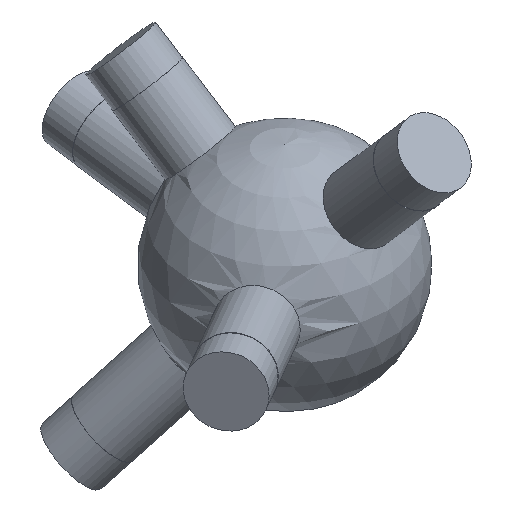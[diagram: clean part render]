
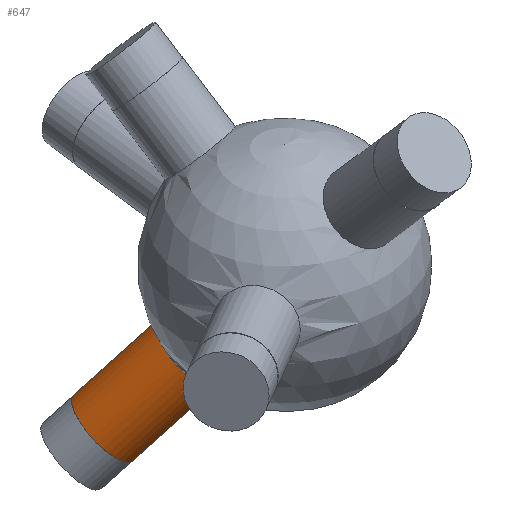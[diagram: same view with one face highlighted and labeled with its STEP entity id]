
A CAD part, isometric view. The second image highlights one B-rep face of the part: STEP entity #647.
In plain terms, the highlighted cylindrical face has radius 6 mm (diameter 12 mm), a full revolution.
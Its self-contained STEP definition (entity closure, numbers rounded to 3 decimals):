
#35 = SPHERICAL_SURFACE('',#36,20.);
#36 = AXIS2_PLACEMENT_3D('',#37,#38,#39);
#37 = CARTESIAN_POINT('',(0.,0.,0.));
#38 = DIRECTION('',(0.,0.,1.));
#39 = DIRECTION('',(1.,0.,-0.));
#130 = EDGE_CURVE('',#131,#131,#133,.T.);
#131 = VERTEX_POINT('',#132);
#132 = CARTESIAN_POINT('',(-15.39,8.242,-9.757
    ));
#133 = SURFACE_CURVE('',#134,(#139,#222),.PCURVE_S1.);
#134 = CIRCLE('',#135,6.);
#135 = AXIS2_PLACEMENT_3D('',#136,#137,#138);
#136 = CARTESIAN_POINT('',(-10.688,8.242,
    -13.484));
#137 = DIRECTION('',(-0.56,0.432,-0.707));
#138 = DIRECTION('',(0.784,0.,-0.621)
  );
#139 = PCURVE('',#35,#140);
#140 = DEFINITIONAL_REPRESENTATION('',(#141),#221);
#141 = B_SPLINE_CURVE_WITH_KNOTS('',8,(#142,#143,#144,#145,#146,#147,
    #148,#149,#150,#151,#152,#153,#154,#155,#156,#157,#158,#159,#160,
    #161,#162,#163,#164,#165,#166,#167,#168,#169,#170,#171,#172,#173,
    #174,#175,#176,#177,#178,#179,#180,#181,#182,#183,#184,#185,#186,
    #187,#188,#189,#190,#191,#192,#193,#194,#195,#196,#197,#198,#199,
    #200,#201,#202,#203,#204,#205,#206,#207,#208,#209,#210,#211,#212,
    #213,#214,#215,#216,#217,#218,#219,#220),.UNSPECIFIED.,.T.,.F.,(9,7,
    7,7,7,7,7,7,7,7,7,9),(3.142,3.927,4.614,
    5.216,5.742,6.202,6.605,
    6.957,7.266,7.806,8.615,
    9.425),.UNSPECIFIED.);
#142 = CARTESIAN_POINT('',(2.65,-0.51));
#143 = CARTESIAN_POINT('',(2.619,-0.498));
#144 = CARTESIAN_POINT('',(2.587,-0.489));
#145 = CARTESIAN_POINT('',(2.554,-0.483));
#146 = CARTESIAN_POINT('',(2.521,-0.479));
#147 = CARTESIAN_POINT('',(2.487,-0.478));
#148 = CARTESIAN_POINT('',(2.454,-0.479));
#149 = CARTESIAN_POINT('',(2.421,-0.483));
#150 = CARTESIAN_POINT('',(2.36,-0.496));
#151 = CARTESIAN_POINT('',(2.332,-0.504));
#152 = CARTESIAN_POINT('',(2.305,-0.513));
#153 = CARTESIAN_POINT('',(2.278,-0.525));
#154 = CARTESIAN_POINT('',(2.252,-0.538));
#155 = CARTESIAN_POINT('',(2.227,-0.553));
#156 = CARTESIAN_POINT('',(2.204,-0.57));
#157 = CARTESIAN_POINT('',(2.163,-0.604));
#158 = CARTESIAN_POINT('',(2.144,-0.621));
#159 = CARTESIAN_POINT('',(2.128,-0.639));
#160 = CARTESIAN_POINT('',(2.112,-0.658));
#161 = CARTESIAN_POINT('',(2.098,-0.678));
#162 = CARTESIAN_POINT('',(2.085,-0.698));
#163 = CARTESIAN_POINT('',(2.075,-0.719));
#164 = CARTESIAN_POINT('',(2.058,-0.76));
#165 = CARTESIAN_POINT('',(2.052,-0.779));
#166 = CARTESIAN_POINT('',(2.048,-0.799));
#167 = CARTESIAN_POINT('',(2.045,-0.819));
#168 = CARTESIAN_POINT('',(2.045,-0.838));
#169 = CARTESIAN_POINT('',(2.046,-0.858));
#170 = CARTESIAN_POINT('',(2.05,-0.878));
#171 = CARTESIAN_POINT('',(2.063,-0.914));
#172 = CARTESIAN_POINT('',(2.07,-0.931));
#173 = CARTESIAN_POINT('',(2.08,-0.947));
#174 = CARTESIAN_POINT('',(2.092,-0.963));
#175 = CARTESIAN_POINT('',(2.107,-0.978));
#176 = CARTESIAN_POINT('',(2.124,-0.993));
#177 = CARTESIAN_POINT('',(2.143,-1.006));
#178 = CARTESIAN_POINT('',(2.185,-1.03));
#179 = CARTESIAN_POINT('',(2.206,-1.041));
#180 = CARTESIAN_POINT('',(2.23,-1.05));
#181 = CARTESIAN_POINT('',(2.255,-1.059));
#182 = CARTESIAN_POINT('',(2.282,-1.067));
#183 = CARTESIAN_POINT('',(2.311,-1.073));
#184 = CARTESIAN_POINT('',(2.341,-1.078));
#185 = CARTESIAN_POINT('',(2.399,-1.086));
#186 = CARTESIAN_POINT('',(2.427,-1.089));
#187 = CARTESIAN_POINT('',(2.455,-1.09));
#188 = CARTESIAN_POINT('',(2.484,-1.091));
#189 = CARTESIAN_POINT('',(2.513,-1.09));
#190 = CARTESIAN_POINT('',(2.541,-1.089));
#191 = CARTESIAN_POINT('',(2.569,-1.086));
#192 = CARTESIAN_POINT('',(2.62,-1.08));
#193 = CARTESIAN_POINT('',(2.643,-1.076));
#194 = CARTESIAN_POINT('',(2.666,-1.071));
#195 = CARTESIAN_POINT('',(2.688,-1.066));
#196 = CARTESIAN_POINT('',(2.708,-1.06));
#197 = CARTESIAN_POINT('',(2.728,-1.054));
#198 = CARTESIAN_POINT('',(2.746,-1.047));
#199 = CARTESIAN_POINT('',(2.794,-1.026));
#200 = CARTESIAN_POINT('',(2.821,-1.012));
#201 = CARTESIAN_POINT('',(2.844,-0.995));
#202 = CARTESIAN_POINT('',(2.864,-0.978));
#203 = CARTESIAN_POINT('',(2.88,-0.96));
#204 = CARTESIAN_POINT('',(2.893,-0.941));
#205 = CARTESIAN_POINT('',(2.903,-0.922));
#206 = CARTESIAN_POINT('',(2.922,-0.873));
#207 = CARTESIAN_POINT('',(2.927,-0.842));
#208 = CARTESIAN_POINT('',(2.926,-0.812));
#209 = CARTESIAN_POINT('',(2.92,-0.781));
#210 = CARTESIAN_POINT('',(2.911,-0.751));
#211 = CARTESIAN_POINT('',(2.898,-0.722));
#212 = CARTESIAN_POINT('',(2.882,-0.694));
#213 = CARTESIAN_POINT('',(2.844,-0.641));
#214 = CARTESIAN_POINT('',(2.822,-0.616));
#215 = CARTESIAN_POINT('',(2.797,-0.593));
#216 = CARTESIAN_POINT('',(2.771,-0.572));
#217 = CARTESIAN_POINT('',(2.743,-0.553));
#218 = CARTESIAN_POINT('',(2.713,-0.536));
#219 = CARTESIAN_POINT('',(2.682,-0.521));
#220 = CARTESIAN_POINT('',(2.65,-0.51));
#221 = ( GEOMETRIC_REPRESENTATION_CONTEXT(2) 
PARAMETRIC_REPRESENTATION_CONTEXT() REPRESENTATION_CONTEXT('2D SPACE',''
  ) );
#222 = PCURVE('',#223,#228);
#223 = CYLINDRICAL_SURFACE('',#224,6.);
#224 = AXIS2_PLACEMENT_3D('',#225,#226,#227);
#225 = CARTESIAN_POINT('',(0.,0.,0.));
#226 = DIRECTION('',(-0.56,0.432,-0.707));
#227 = DIRECTION('',(-0.784,0.,0.621)
  );
#228 = DEFINITIONAL_REPRESENTATION('',(#229),#233);
#229 = LINE('',#230,#231);
#230 = CARTESIAN_POINT('',(-3.142,19.079));
#231 = VECTOR('',#232,1.);
#232 = DIRECTION('',(1.,0.));
#233 = ( GEOMETRIC_REPRESENTATION_CONTEXT(2) 
PARAMETRIC_REPRESENTATION_CONTEXT() REPRESENTATION_CONTEXT('2D SPACE',''
  ) );
#647 = ADVANCED_FACE('',(#648),#223,.T.);
#648 = FACE_BOUND('',#649,.T.);
#649 = EDGE_LOOP('',(#650,#673,#700,#701));
#650 = ORIENTED_EDGE('',*,*,#651,.T.);
#651 = EDGE_CURVE('',#131,#652,#654,.T.);
#652 = VERTEX_POINT('',#653);
#653 = CARTESIAN_POINT('',(-24.403,15.192,-21.127
    ));
#654 = SEAM_CURVE('',#655,(#659,#666),.PCURVE_S1.);
#655 = LINE('',#656,#657);
#656 = CARTESIAN_POINT('',(-4.702,0.,
    3.727));
#657 = VECTOR('',#658,1.);
#658 = DIRECTION('',(-0.56,0.432,-0.707));
#659 = PCURVE('',#223,#660);
#660 = DEFINITIONAL_REPRESENTATION('',(#661),#665);
#661 = LINE('',#662,#663);
#662 = CARTESIAN_POINT('',(6.283,-0.));
#663 = VECTOR('',#664,1.);
#664 = DIRECTION('',(0.,1.));
#665 = ( GEOMETRIC_REPRESENTATION_CONTEXT(2) 
PARAMETRIC_REPRESENTATION_CONTEXT() REPRESENTATION_CONTEXT('2D SPACE',''
  ) );
#666 = PCURVE('',#223,#667);
#667 = DEFINITIONAL_REPRESENTATION('',(#668),#672);
#668 = LINE('',#669,#670);
#669 = CARTESIAN_POINT('',(0.,-0.));
#670 = VECTOR('',#671,1.);
#671 = DIRECTION('',(0.,1.));
#672 = ( GEOMETRIC_REPRESENTATION_CONTEXT(2) 
PARAMETRIC_REPRESENTATION_CONTEXT() REPRESENTATION_CONTEXT('2D SPACE',''
  ) );
#673 = ORIENTED_EDGE('',*,*,#674,.F.);
#674 = EDGE_CURVE('',#652,#652,#675,.T.);
#675 = SURFACE_CURVE('',#676,(#681,#688),.PCURVE_S1.);
#676 = CIRCLE('',#677,6.);
#677 = AXIS2_PLACEMENT_3D('',#678,#679,#680);
#678 = CARTESIAN_POINT('',(-19.701,15.192,
    -24.854));
#679 = DIRECTION('',(-0.56,0.432,-0.707));
#680 = DIRECTION('',(-0.784,0.,0.621)
  );
#681 = PCURVE('',#223,#682);
#682 = DEFINITIONAL_REPRESENTATION('',(#683),#687);
#683 = LINE('',#684,#685);
#684 = CARTESIAN_POINT('',(0.,35.166));
#685 = VECTOR('',#686,1.);
#686 = DIRECTION('',(1.,0.));
#687 = ( GEOMETRIC_REPRESENTATION_CONTEXT(2) 
PARAMETRIC_REPRESENTATION_CONTEXT() REPRESENTATION_CONTEXT('2D SPACE',''
  ) );
#688 = PCURVE('',#689,#694);
#689 = PLANE('',#690);
#690 = AXIS2_PLACEMENT_3D('',#691,#692,#693);
#691 = CARTESIAN_POINT('',(-19.701,15.192,
    -24.854));
#692 = DIRECTION('',(-0.56,0.432,-0.707));
#693 = DIRECTION('',(-0.784,0.,0.621)
  );
#694 = DEFINITIONAL_REPRESENTATION('',(#695),#699);
#695 = CIRCLE('',#696,6.);
#696 = AXIS2_PLACEMENT_2D('',#697,#698);
#697 = CARTESIAN_POINT('',(0.,0.));
#698 = DIRECTION('',(1.,0.));
#699 = ( GEOMETRIC_REPRESENTATION_CONTEXT(2) 
PARAMETRIC_REPRESENTATION_CONTEXT() REPRESENTATION_CONTEXT('2D SPACE',''
  ) );
#700 = ORIENTED_EDGE('',*,*,#651,.F.);
#701 = ORIENTED_EDGE('',*,*,#130,.T.);
